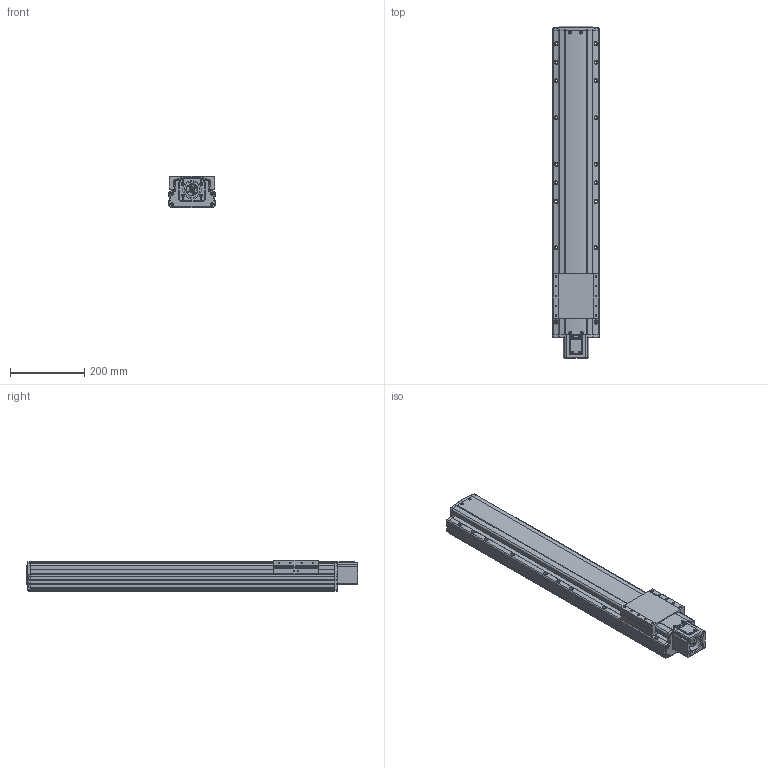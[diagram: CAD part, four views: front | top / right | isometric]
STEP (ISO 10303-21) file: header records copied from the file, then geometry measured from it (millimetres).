
FILE_DESCRIPTION(('STEP AP214'),'1');
FILE_NAME('Z:/Web/3D/PSA125/STP/PSA125-600 (3D)/PSA125ㅁㅁ-600S.stp','2014-06-23T00:27:49',(' '),(' '),'Spatial InterOp 3D',' ',' ');
FILE_SCHEMA(('automotive_design'));
Length unit declared in the file: millimetre
Products named in the file (35): 스크루 : Round - M4.0 x 10.0; RRCV-PA120; SLIDE; BASE; FRCV-PA120-1(기준 뿔 제거); RR1500; 스크루 : Round - M4.0 x 6.0; 너트 : Square - M10.0 x 220.7419; SSFX-SAN65; CPLCV-SAN65; 스크루 : Round - M3.0 x 6.0; MTHZ-PA120-S60A-3; 스크루 : Socket - M4.0 x 20.0; FRCV; NONE
Bounding box: 125 x 894.6 x 86 mm (x, y, z)
Volume: 7221876.5 mm3; surface area: 642416 mm2
Topology: 35 solids, 69 shells, 3190 faces, 8178 edges, 5136 vertices
Faces by surface type: plane 1469, cylinder 1023, cone 433, torus 174, sphere 50, bspline 41
Entity records: 125796 total; most frequent: CARTESIAN_POINT 20910, DIRECTION 17148, ORIENTED_EDGE 16028, EDGE_CURVE 8014, AXIS2_PLACEMENT_3D 6202, VERTEX_POINT 5136, LINE 4744, VECTOR 4744
